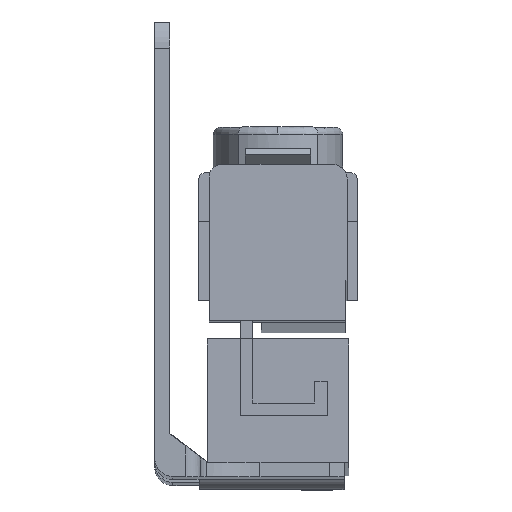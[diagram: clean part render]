
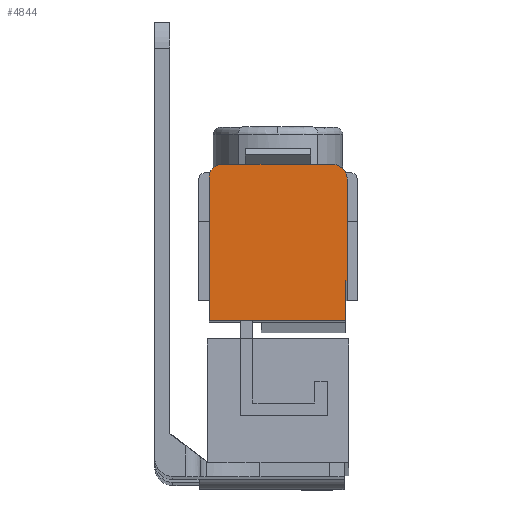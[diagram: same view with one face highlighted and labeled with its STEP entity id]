
A CAD part, front view. The second image highlights one B-rep face of the part: STEP entity #4844.
In plain terms, the highlighted planar face has unit normal (0, -1, 0.005).
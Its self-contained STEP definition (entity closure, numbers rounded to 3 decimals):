
#92 = FACE_OUTER_BOUND ( 'NONE', #2255, .T. ) ;
#851 = EDGE_CURVE ( 'NONE', #1253, #1259, #1680, .T. ) ;
#854 = EDGE_CURVE ( 'NONE', #1259, #1254, #1687, .T. ) ;
#858 = EDGE_CURVE ( 'NONE', #1254, #1200, #1693, .T. ) ;
#861 = EDGE_CURVE ( 'NONE', #1200, #1265, #1700, .T. ) ;
#865 = EDGE_CURVE ( 'NONE', #1265, #1105, #1706, .T. ) ;
#866 = EDGE_CURVE ( 'NONE', #1101, #1253, #1708, .T. ) ;
#869 = EDGE_CURVE ( 'NONE', #1105, #1117, #1714, .T. ) ;
#870 = EDGE_CURVE ( 'NONE', #1117, #1101, #1716, .T. ) ;
#1101 = VERTEX_POINT ( 'NONE', #4086 ) ;
#1105 = VERTEX_POINT ( 'NONE', #4090 ) ;
#1117 = VERTEX_POINT ( 'NONE', #4102 ) ;
#1200 = VERTEX_POINT ( 'NONE', #4185 ) ;
#1253 = VERTEX_POINT ( 'NONE', #4238 ) ;
#1254 = VERTEX_POINT ( 'NONE', #4239 ) ;
#1259 = VERTEX_POINT ( 'NONE', #4244 ) ;
#1265 = VERTEX_POINT ( 'NONE', #4250 ) ;
#1680 = LINE ( 'NONE', #3666, #1681 ) ;
#1681 = VECTOR ( 'NONE', #3667, 1000. ) ;
#1687 = CIRCLE ( 'NONE', #1963, 2.05 ) ;
#1693 = LINE ( 'NONE', #3681, #1694 ) ;
#1694 = VECTOR ( 'NONE', #3682, 1000. ) ;
#1700 = CIRCLE ( 'NONE', #1964, 1.75 ) ;
#1706 = LINE ( 'NONE', #3696, #1707 ) ;
#1707 = VECTOR ( 'NONE', #3697, 1000. ) ;
#1708 = LINE ( 'NONE', #3698, #1709 ) ;
#1709 = VECTOR ( 'NONE', #3699, 1000. ) ;
#1714 = LINE ( 'NONE', #3704, #1715 ) ;
#1715 = VECTOR ( 'NONE', #3705, 1000. ) ;
#1716 = LINE ( 'NONE', #3706, #1717 ) ;
#1717 = VECTOR ( 'NONE', #3707, 1000. ) ;
#1963 = AXIS2_PLACEMENT_3D ( 'NONE', #3672, #3673, #3674 ) ;
#1964 = AXIS2_PLACEMENT_3D ( 'NONE', #3687, #3688, #3689 ) ;
#2023 = AXIS2_PLACEMENT_3D ( 'NONE', #4380, #4381, #4382 ) ;
#2255 = EDGE_LOOP ( 'NONE', ( #2594, #2593, #2592, #2591, #2590, #2589, #2588, #2587 ) ) ;
#2587 = ORIENTED_EDGE ( 'NONE', *, *, #866, .T. ) ;
#2588 = ORIENTED_EDGE ( 'NONE', *, *, #870, .T. ) ;
#2589 = ORIENTED_EDGE ( 'NONE', *, *, #869, .T. ) ;
#2590 = ORIENTED_EDGE ( 'NONE', *, *, #865, .T. ) ;
#2591 = ORIENTED_EDGE ( 'NONE', *, *, #861, .T. ) ;
#2592 = ORIENTED_EDGE ( 'NONE', *, *, #858, .T. ) ;
#2593 = ORIENTED_EDGE ( 'NONE', *, *, #854, .T. ) ;
#2594 = ORIENTED_EDGE ( 'NONE', *, *, #851, .T. ) ;
#3666 = CARTESIAN_POINT ( 'NONE',  ( 26.5, -25.185, -6.709 ) ) ;
#3667 = DIRECTION ( 'NONE',  ( 0., 0.005, 1. ) ) ;
#3672 = CARTESIAN_POINT ( 'NONE',  ( 24.45, -25.185, -6.709 ) ) ;
#3673 = DIRECTION ( 'NONE',  ( 0., -1., 0.005 ) ) ;
#3674 = DIRECTION ( 'NONE',  ( 0., 0.005, 1. ) ) ;
#3681 = CARTESIAN_POINT ( 'NONE',  ( 9.25, -25.174, -4.659 ) ) ;
#3682 = DIRECTION ( 'NONE',  ( -1., 0., 0. ) ) ;
#3687 = CARTESIAN_POINT ( 'NONE',  ( 9.25, -25.183, -6.409 ) ) ;
#3688 = DIRECTION ( 'NONE',  ( 0., -1., 0.005 ) ) ;
#3689 = DIRECTION ( 'NONE',  ( 0., -0.005, -1. ) ) ;
#3696 = CARTESIAN_POINT ( 'NONE',  ( 7.5, -25.183, -6.409 ) ) ;
#3697 = DIRECTION ( 'NONE',  ( 0., -0.005, -1. ) ) ;
#3698 = CARTESIAN_POINT ( 'NONE',  ( 7.5, -25.258, -20.659 ) ) ;
#3699 = DIRECTION ( 'NONE',  ( 1., 0., 0. ) ) ;
#3704 = CARTESIAN_POINT ( 'NONE',  ( 26.25, -25.287, -26.159 ) ) ;
#3705 = DIRECTION ( 'NONE',  ( 1., 0., 0. ) ) ;
#3706 = CARTESIAN_POINT ( 'NONE',  ( 26.25, -25.287, -26.159 ) ) ;
#3707 = DIRECTION ( 'NONE',  ( 0., 0.005, 1. ) ) ;
#4086 = CARTESIAN_POINT ( 'NONE',  ( 26.25, -25.258, -20.659 ) ) ;
#4090 = CARTESIAN_POINT ( 'NONE',  ( 7.5, -25.287, -26.159 ) ) ;
#4102 = CARTESIAN_POINT ( 'NONE',  ( 26.25, -25.287, -26.159 ) ) ;
#4185 = CARTESIAN_POINT ( 'NONE',  ( 9.25, -25.174, -4.659 ) ) ;
#4238 = CARTESIAN_POINT ( 'NONE',  ( 26.5, -25.258, -20.659 ) ) ;
#4239 = CARTESIAN_POINT ( 'NONE',  ( 24.45, -25.174, -4.659 ) ) ;
#4244 = CARTESIAN_POINT ( 'NONE',  ( 26.5, -25.185, -6.709 ) ) ;
#4250 = CARTESIAN_POINT ( 'NONE',  ( 7.5, -25.183, -6.409 ) ) ;
#4379 = PLANE ( 'NONE',  #2023 ) ;
#4380 = CARTESIAN_POINT ( 'NONE',  ( 9.25, -25.183, -6.409 ) ) ;
#4381 = DIRECTION ( 'NONE',  ( 0., -1., 0.005 ) ) ;
#4382 = DIRECTION ( 'NONE',  ( 0., -0.005, -1. ) ) ;
#4844 = ADVANCED_FACE ( 'NONE', ( #92 ), #4379, .T. ) ;
